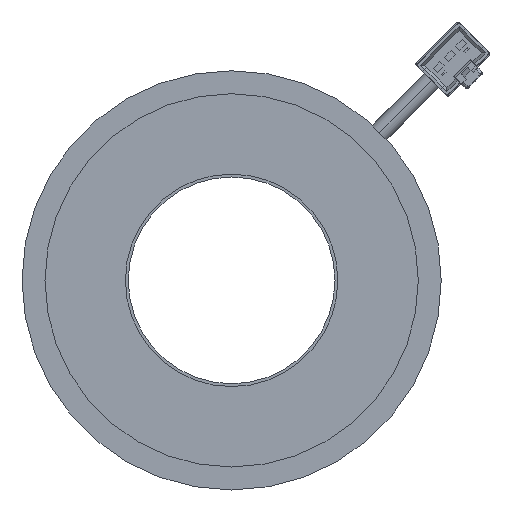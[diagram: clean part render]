
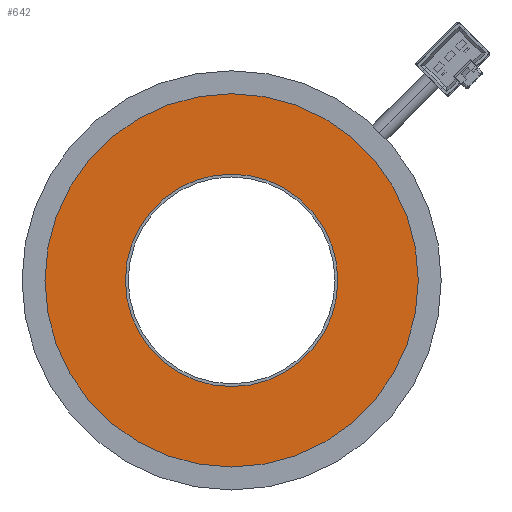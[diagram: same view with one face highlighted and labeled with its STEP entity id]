
A CAD part, front view. The second image highlights one B-rep face of the part: STEP entity #642.
In plain terms, the highlighted planar face has unit normal (0, -1, 0).
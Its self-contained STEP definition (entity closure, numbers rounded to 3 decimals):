
#1=CARTESIAN_POINT('',(0.,-11.,0.));
#2=DIRECTION('',(0.,1.,0.));
#3=DIRECTION('',(1.,0.,0.));
#4=AXIS2_PLACEMENT_3D('',#1,#2,#3);
#6=CARTESIAN_POINT('',(0.,-11.,0.));
#7=DIRECTION('',(0.,1.,0.));
#8=DIRECTION('',(-1.,0.,0.));
#9=AXIS2_PLACEMENT_3D('',#6,#7,#8);
#11=CARTESIAN_POINT('',(0.,-11.,0.));
#12=DIRECTION('',(0.,-1.,0.));
#13=DIRECTION('',(1.,0.,0.));
#14=AXIS2_PLACEMENT_3D('',#11,#12,#13);
#16=CARTESIAN_POINT('',(0.,-11.,0.));
#17=DIRECTION('',(0.,-1.,0.));
#18=DIRECTION('',(-1.,0.,0.));
#19=AXIS2_PLACEMENT_3D('',#16,#17,#18);
#489=CARTESIAN_POINT('',(32.9,-11.,0.));
#490=CARTESIAN_POINT('',(-32.9,-11.,0.));
#491=VERTEX_POINT('',#489);
#492=VERTEX_POINT('',#490);
#493=CARTESIAN_POINT('',(18.5,-11.,0.));
#494=CARTESIAN_POINT('',(-18.5,-11.,0.));
#495=VERTEX_POINT('',#493);
#496=VERTEX_POINT('',#494);
#625=CARTESIAN_POINT('',(0.,-11.,0.));
#626=DIRECTION('',(0.,1.,0.));
#627=DIRECTION('',(1.,0.,0.));
#628=AXIS2_PLACEMENT_3D('',#625,#626,#627);
#629=PLANE('',#628);
#631=ORIENTED_EDGE('',*,*,#630,.T.);
#633=ORIENTED_EDGE('',*,*,#632,.T.);
#634=EDGE_LOOP('',(#631,#633));
#635=FACE_OUTER_BOUND('',#634,.F.);
#637=ORIENTED_EDGE('',*,*,#636,.T.);
#639=ORIENTED_EDGE('',*,*,#638,.T.);
#640=EDGE_LOOP('',(#637,#639));
#641=FACE_BOUND('',#640,.F.);
#5=CIRCLE('',#4,32.9);
#10=CIRCLE('',#9,32.9);
#15=CIRCLE('',#14,18.5);
#20=CIRCLE('',#19,18.5);
#630=EDGE_CURVE('',#491,#492,#5,.T.);
#632=EDGE_CURVE('',#492,#491,#10,.T.);
#636=EDGE_CURVE('',#495,#496,#15,.T.);
#638=EDGE_CURVE('',#496,#495,#20,.T.);
#642=ADVANCED_FACE('',(#635,#641),#629,.F.);
